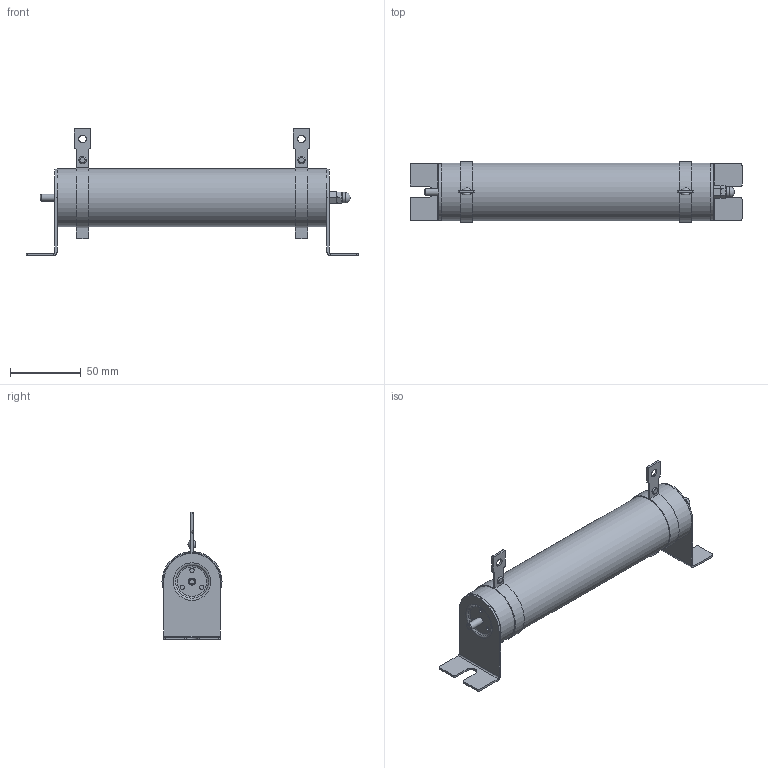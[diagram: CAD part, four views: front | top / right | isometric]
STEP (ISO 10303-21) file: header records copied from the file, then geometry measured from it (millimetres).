
FILE_DESCRIPTION(('STEP AP203'), '1');
FILE_NAME('Ðåçèñòîð òîðìîçíîé _ 160 Âò 600 Îì', '', ('UNSPECIFIED'), ('UNSPECIFIED'), 'C3D Converter', 'C3D Toolkit', '');
FILE_SCHEMA(('CONFIG_CONTROL_DESIGN'));
Length unit declared in the file: millimetre
Products named in the file (16): 160 Вт 600 Ом; РТ 160 Вт 600 Ом; ГОСТ 22032-76; DIN 125 (A); DIN 127 (A); DIN 934; ГОСТ 11860-85; ГОСТ 10299-80
Assembly tree (19 placements, depth 3):
  160 Вт 600 Ом
    РТ 160 Вт 600 Ом
    РТ 160 Вт 600 Ом  x2
    ГОСТ 22032-76  x2
      (unnamed)
    DIN 125 (A)
      (unnamed)
    DIN 127 (A)
      (unnamed)
    DIN 934
      (unnamed)
    ГОСТ 11860-85
      (unnamed)
    РТ 160 Вт 600 Ом  x2
    ГОСТ 10299-80  x2
      (unnamed)
Bounding box: 235 x 42.5 x 90 mm (x, y, z)
Volume: 262974.3 mm3; surface area: 49029.6 mm2
Topology: 13 solids, 13 shells, 193 faces, 426 edges, 269 vertices
Faces by surface type: plane 90, cylinder 66, cone 22, torus 12, sphere 3
Full cylindrical faces by diameter (mm): 3 x6, 3.5 x4, 4.134 x2, 5 x4, 5.3 x1, 5.5 x4, 7.5 x1, 10 x1, 25 x2, 41 x3
Entity records: 5622 total; most frequent: CARTESIAN_POINT 1578, DIRECTION 592, ORIENTED_EDGE 466, AXIS2_PLACEMENT_3D 253, EDGE_CURVE 233, EDGE_LOOP 186, VERTEX_POINT 167, ADVANCED_FACE 126
